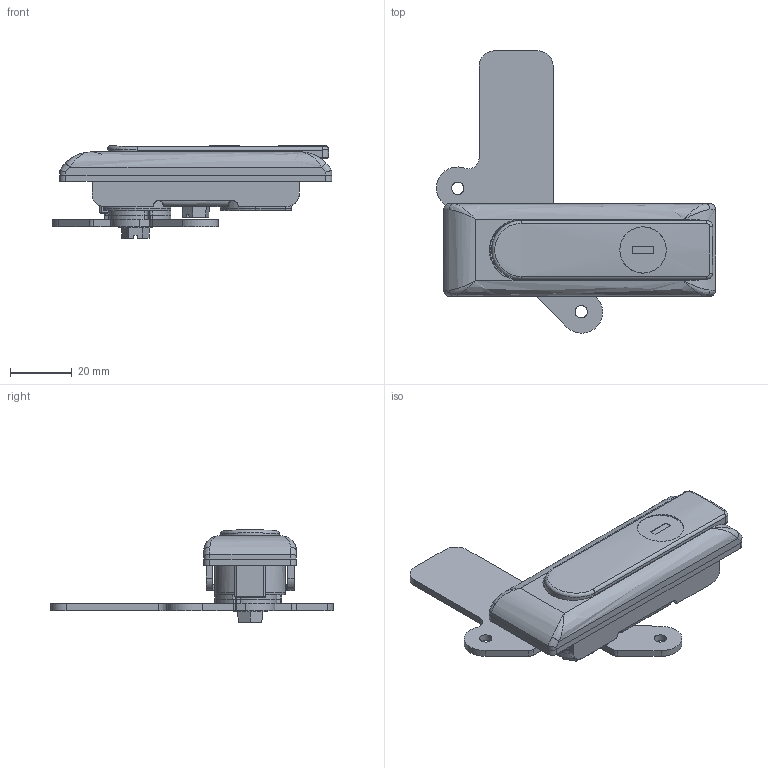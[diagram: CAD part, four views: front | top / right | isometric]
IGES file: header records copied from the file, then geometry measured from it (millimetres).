
Global section: file name: DR_MS607-3; native system: Autodesk Inventor 2015; preprocessor: unknown; author: Administrator; date: 20170801.140034; units: millimetre
Bounding box: 90.4 x 91.4 x 30 mm (x, y, z)
Volume: 39340.2 mm3; surface area: 30744.5 mm2
Topology: 12 solids, 12 shells, 405 faces, 1048 edges, 670 vertices
Faces by surface type: bspline 405
